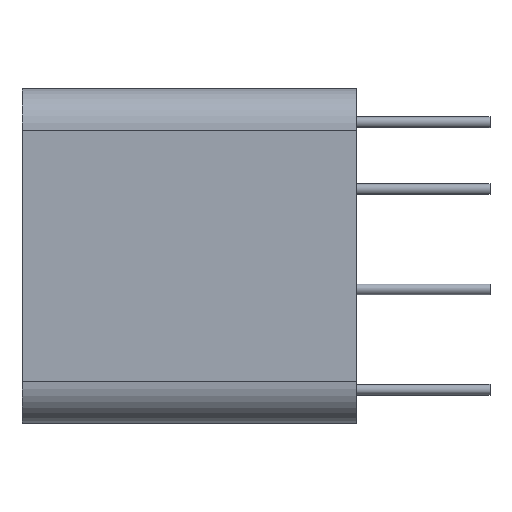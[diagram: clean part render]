
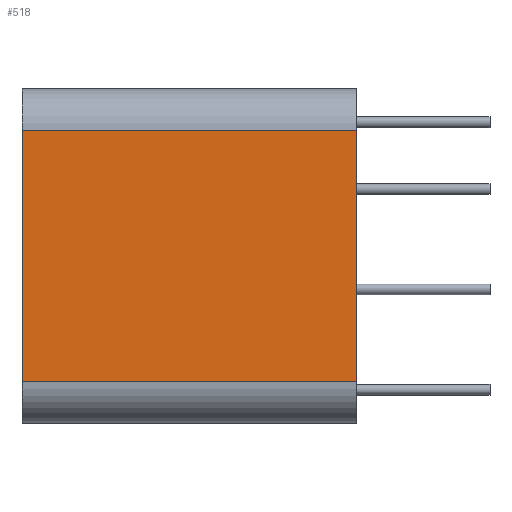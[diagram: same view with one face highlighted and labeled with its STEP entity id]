
A CAD part, left-side view. The second image highlights one B-rep face of the part: STEP entity #518.
In plain terms, the highlighted planar face has unit normal (-1, 0, 0).
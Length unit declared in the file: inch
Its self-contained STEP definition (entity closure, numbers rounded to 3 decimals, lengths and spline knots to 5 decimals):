
#5 = ORIENTED_EDGE ( 'NONE', *, *, #702, .T. ) ;
#18 = DIRECTION ( 'NONE',  ( 1., 0., 0. ) ) ;
#81 = CARTESIAN_POINT ( 'NONE',  ( -0.25, 0., 0.188 ) ) ;
#91 = ORIENTED_EDGE ( 'NONE', *, *, #835, .F. ) ;
#98 = VECTOR ( 'NONE', #427, 39.37008 ) ;
#103 = LINE ( 'NONE', #783, #98 ) ;
#262 = ORIENTED_EDGE ( 'NONE', *, *, #870, .T. ) ;
#286 = VERTEX_POINT ( 'NONE', #413 ) ;
#313 = CARTESIAN_POINT ( 'NONE',  ( -0.25, 0., -0.188 ) ) ;
#325 = CARTESIAN_POINT ( 'NONE',  ( -0.25, 0., 0.25 ) ) ;
#362 = EDGE_CURVE ( 'NONE', #629, #722, #532, .T. ) ;
#368 = VERTEX_POINT ( 'NONE', #81 ) ;
#380 = CARTESIAN_POINT ( 'NONE',  ( -0.25, 0.5, 0.25 ) ) ;
#393 = VECTOR ( 'NONE', #631, 39.37008 ) ;
#413 = CARTESIAN_POINT ( 'NONE',  ( -0.25, 0.5, 0.188 ) ) ;
#427 = DIRECTION ( 'NONE',  ( 0., 1., 0. ) ) ;
#441 = LINE ( 'NONE', #488, #393 ) ;
#451 = DIRECTION ( 'NONE',  ( 0., 0., -1. ) ) ;
#488 = CARTESIAN_POINT ( 'NONE',  ( -0.25, 0.5, 0.25 ) ) ;
#500 = PLANE ( 'NONE',  #796 ) ;
#518 = ADVANCED_FACE ( 'NONE', ( #542 ), #500, .F. ) ;
#532 = LINE ( 'NONE', #866, #652 ) ;
#541 = VECTOR ( 'NONE', #745, 39.37008 ) ;
#542 = FACE_OUTER_BOUND ( 'NONE', #584, .T. ) ;
#584 = EDGE_LOOP ( 'NONE', ( #91, #901, #5, #262 ) ) ;
#629 = VERTEX_POINT ( 'NONE', #814 ) ;
#631 = DIRECTION ( 'NONE',  ( 0., 0., 1. ) ) ;
#646 = DIRECTION ( 'NONE',  ( 0., -1., 0. ) ) ;
#649 = LINE ( 'NONE', #325, #541 ) ;
#652 = VECTOR ( 'NONE', #646, 39.37008 ) ;
#702 = EDGE_CURVE ( 'NONE', #722, #368, #649, .T. ) ;
#722 = VERTEX_POINT ( 'NONE', #313 ) ;
#745 = DIRECTION ( 'NONE',  ( 0., 0., 1. ) ) ;
#783 = CARTESIAN_POINT ( 'NONE',  ( -0.25, 0.5, 0.188 ) ) ;
#796 = AXIS2_PLACEMENT_3D ( 'NONE', #380, #18, #451 ) ;
#814 = CARTESIAN_POINT ( 'NONE',  ( -0.25, 0.5, -0.188 ) ) ;
#835 = EDGE_CURVE ( 'NONE', #629, #286, #441, .T. ) ;
#866 = CARTESIAN_POINT ( 'NONE',  ( -0.25, 0.5, -0.188 ) ) ;
#870 = EDGE_CURVE ( 'NONE', #368, #286, #103, .T. ) ;
#901 = ORIENTED_EDGE ( 'NONE', *, *, #362, .T. ) ;
